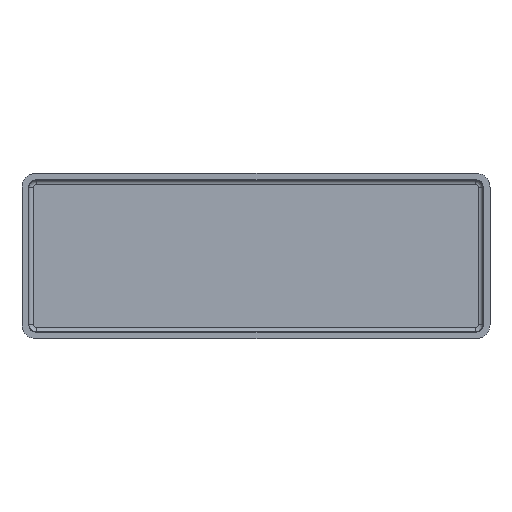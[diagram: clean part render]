
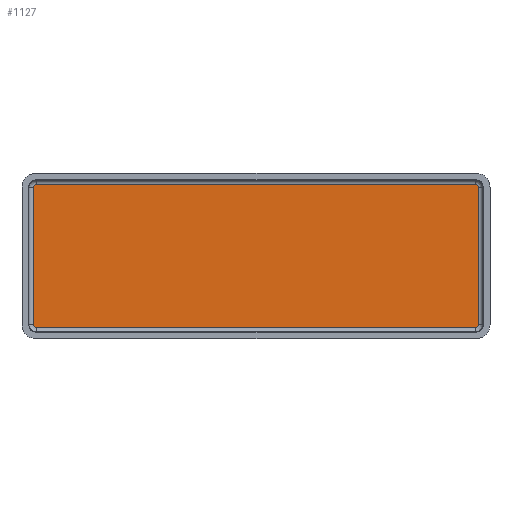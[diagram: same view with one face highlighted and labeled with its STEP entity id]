
A CAD part, top view. The second image highlights one B-rep face of the part: STEP entity #1127.
In plain terms, the highlighted planar face has unit normal (0, 0, 1).
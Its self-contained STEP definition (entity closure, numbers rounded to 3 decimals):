
#2 = VECTOR ( 'NONE', #519, 1000. ) ;
#9 = CARTESIAN_POINT ( 'NONE',  ( -99.802, 77.918, -2.111 ) ) ;
#22 = VECTOR ( 'NONE', #810, 1000. ) ;
#25 = CARTESIAN_POINT ( 'NONE',  ( -19.696, 52.585, -2.111 ) ) ;
#45 = CARTESIAN_POINT ( 'NONE',  ( -19.696, 52.29, -2.111 ) ) ;
#68 = VERTEX_POINT ( 'NONE', #732 ) ;
#80 = PLANE ( 'NONE',  #1138 ) ;
#86 = VERTEX_POINT ( 'NONE', #1054 ) ;
#93 = VECTOR ( 'NONE', #257, 1000. ) ;
#108 = EDGE_CURVE ( 'NONE', #479, #86, #501, .T. ) ;
#114 = EDGE_CURVE ( 'NONE', #189, #274, #539, .T. ) ;
#119 = VECTOR ( 'NONE', #773, 1000. ) ;
#143 = VERTEX_POINT ( 'NONE', #249 ) ;
#173 = CARTESIAN_POINT ( 'NONE',  ( -100.304, 52.29, -2.111 ) ) ;
#189 = VERTEX_POINT ( 'NONE', #200 ) ;
#200 = CARTESIAN_POINT ( 'NONE',  ( -99.802, 77.918, -2.111 ) ) ;
#236 = VERTEX_POINT ( 'NONE', #497 ) ;
#246 = EDGE_CURVE ( 'NONE', #595, #68, #901, .T. ) ;
#249 = CARTESIAN_POINT ( 'NONE',  ( -100.304, 77.415, -2.111 ) ) ;
#254 = CARTESIAN_POINT ( 'NONE',  ( -60., 77.918, -2.111 ) ) ;
#257 = DIRECTION ( 'NONE',  ( -1., 0., 0. ) ) ;
#274 = VERTEX_POINT ( 'NONE', #990 ) ;
#289 = CARTESIAN_POINT ( 'NONE',  ( -100.304, 77.415, -2.111 ) ) ;
#351 = CARTESIAN_POINT ( 'NONE',  ( -100.096, 52.082, -2.111 ) ) ;
#367 = FACE_OUTER_BOUND ( 'NONE', #728, .T. ) ;
#382 = CARTESIAN_POINT ( 'NONE',  ( -60., 65., -2.111 ) ) ;
#409 = CARTESIAN_POINT ( 'NONE',  ( -19.904, 52.082, -2.111 ) ) ;
#413 = ORIENTED_EDGE ( 'NONE', *, *, #765, .F. ) ;
#432 = ORIENTED_EDGE ( 'NONE', *, *, #997, .F. ) ;
#479 = VERTEX_POINT ( 'NONE', #618 ) ;
#497 = CARTESIAN_POINT ( 'NONE',  ( -19.696, 77.415, -2.111 ) ) ;
#501 =( BOUNDED_CURVE ( )  B_SPLINE_CURVE ( 3, ( #1141, #351, #173, #885 ),
 .UNSPECIFIED., .F., .F. ) 
 B_SPLINE_CURVE_WITH_KNOTS ( ( 4, 4 ),
 ( 5.498, 7.068 ),
 .UNSPECIFIED. ) 
 CURVE ( )  GEOMETRIC_REPRESENTATION_ITEM ( )  RATIONAL_B_SPLINE_CURVE ( ( 1., 0.805, 0.805, 1. ) ) 
 REPRESENTATION_ITEM ( '' )  );
#516 = EDGE_CURVE ( 'NONE', #68, #479, #875, .T. ) ;
#519 = DIRECTION ( 'NONE',  ( 0., -1., 0. ) ) ;
#539 = LINE ( 'NONE', #254, #22 ) ;
#595 = VERTEX_POINT ( 'NONE', #25 ) ;
#609 = ORIENTED_EDGE ( 'NONE', *, *, #108, .F. ) ;
#618 = CARTESIAN_POINT ( 'NONE',  ( -99.802, 52.082, -2.111 ) ) ;
#665 = CARTESIAN_POINT ( 'NONE',  ( -19.904, 77.918, -2.111 ) ) ;
#691 = LINE ( 'NONE', #1044, #2 ) ;
#728 = EDGE_LOOP ( 'NONE', ( #609, #1144, #981, #945, #1014, #848, #413, #432 ) ) ;
#732 = CARTESIAN_POINT ( 'NONE',  ( -20.198, 52.082, -2.111 ) ) ;
#736 = CARTESIAN_POINT ( 'NONE',  ( -100.096, 77.918, -2.111 ) ) ;
#743 = CARTESIAN_POINT ( 'NONE',  ( -100.304, 77.71, -2.111 ) ) ;
#765 = EDGE_CURVE ( 'NONE', #143, #189, #893, .T. ) ;
#773 = DIRECTION ( 'NONE',  ( 0., 1., 0. ) ) ;
#810 = DIRECTION ( 'NONE',  ( 1., 0., 0. ) ) ;
#828 = CARTESIAN_POINT ( 'NONE',  ( -20.198, 52.082, -2.111 ) ) ;
#848 = ORIENTED_EDGE ( 'NONE', *, *, #114, .F. ) ;
#849 = CARTESIAN_POINT ( 'NONE',  ( -19.696, 77.71, -2.111 ) ) ;
#855 = LINE ( 'NONE', #1026, #119 ) ;
#859 = CARTESIAN_POINT ( 'NONE',  ( -19.696, 52.585, -2.111 ) ) ;
#875 = LINE ( 'NONE', #1053, #93 ) ;
#885 = CARTESIAN_POINT ( 'NONE',  ( -100.304, 52.585, -2.111 ) ) ;
#893 =( BOUNDED_CURVE ( )  B_SPLINE_CURVE ( 3, ( #289, #743, #736, #9 ),
 .UNSPECIFIED., .F., .T. ) 
 B_SPLINE_CURVE_WITH_KNOTS ( ( 4, 4 ),
 ( 5.498, 7.068 ),
 .UNSPECIFIED. ) 
 CURVE ( )  GEOMETRIC_REPRESENTATION_ITEM ( )  RATIONAL_B_SPLINE_CURVE ( ( 1., 0.805, 0.805, 1. ) ) 
 REPRESENTATION_ITEM ( '' )  );
#901 =( BOUNDED_CURVE ( )  B_SPLINE_CURVE ( 3, ( #859, #45, #409, #828 ),
 .UNSPECIFIED., .F., .F. ) 
 B_SPLINE_CURVE_WITH_KNOTS ( ( 4, 4 ),
 ( 5.498, 7.068 ),
 .UNSPECIFIED. ) 
 CURVE ( )  GEOMETRIC_REPRESENTATION_ITEM ( )  RATIONAL_B_SPLINE_CURVE ( ( 1., 0.805, 0.805, 1. ) ) 
 REPRESENTATION_ITEM ( '' )  );
#945 = ORIENTED_EDGE ( 'NONE', *, *, #1058, .F. ) ;
#948 = EDGE_CURVE ( 'NONE', #274, #236, #1129, .T. ) ;
#981 = ORIENTED_EDGE ( 'NONE', *, *, #246, .F. ) ;
#985 = DIRECTION ( 'NONE',  ( 0., 0., -1. ) ) ;
#990 = CARTESIAN_POINT ( 'NONE',  ( -20.198, 77.918, -2.111 ) ) ;
#997 = EDGE_CURVE ( 'NONE', #86, #143, #855, .T. ) ;
#1014 = ORIENTED_EDGE ( 'NONE', *, *, #948, .F. ) ;
#1026 = CARTESIAN_POINT ( 'NONE',  ( -100.304, 65., -2.111 ) ) ;
#1035 = CARTESIAN_POINT ( 'NONE',  ( -20.198, 77.918, -2.111 ) ) ;
#1044 = CARTESIAN_POINT ( 'NONE',  ( -19.696, 65., -2.111 ) ) ;
#1053 = CARTESIAN_POINT ( 'NONE',  ( -60., 52.082, -2.111 ) ) ;
#1054 = CARTESIAN_POINT ( 'NONE',  ( -100.304, 52.585, -2.111 ) ) ;
#1058 = EDGE_CURVE ( 'NONE', #236, #595, #691, .T. ) ;
#1066 = DIRECTION ( 'NONE',  ( 0., -1., 0. ) ) ;
#1112 = CARTESIAN_POINT ( 'NONE',  ( -19.696, 77.415, -2.111 ) ) ;
#1127 = ADVANCED_FACE ( 'NONE', ( #367 ), #80, .F. ) ;
#1129 =( BOUNDED_CURVE ( )  B_SPLINE_CURVE ( 3, ( #1035, #665, #849, #1112 ),
 .UNSPECIFIED., .F., .T. ) 
 B_SPLINE_CURVE_WITH_KNOTS ( ( 4, 4 ),
 ( 5.498, 7.068 ),
 .UNSPECIFIED. ) 
 CURVE ( )  GEOMETRIC_REPRESENTATION_ITEM ( )  RATIONAL_B_SPLINE_CURVE ( ( 1., 0.805, 0.805, 1. ) ) 
 REPRESENTATION_ITEM ( '' )  );
#1138 = AXIS2_PLACEMENT_3D ( 'NONE', #382, #985, #1066 ) ;
#1141 = CARTESIAN_POINT ( 'NONE',  ( -99.802, 52.082, -2.111 ) ) ;
#1144 = ORIENTED_EDGE ( 'NONE', *, *, #516, .F. ) ;
